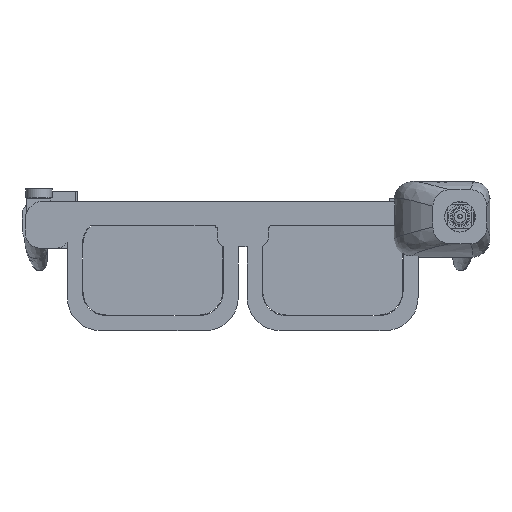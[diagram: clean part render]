
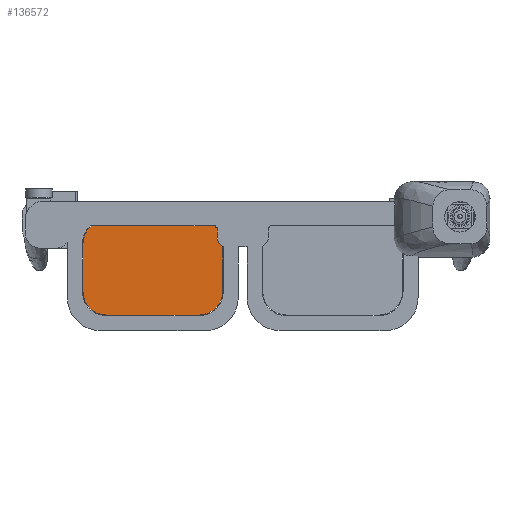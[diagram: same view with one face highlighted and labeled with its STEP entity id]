
A CAD part, front view. The second image highlights one B-rep face of the part: STEP entity #136572.
In plain terms, the highlighted planar face has unit normal (0, -1, 0).
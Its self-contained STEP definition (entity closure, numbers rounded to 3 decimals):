
#136320 = EDGE_CURVE('',#136321,#136323,#136325,.T.);
#136321 = VERTEX_POINT('',#136322);
#136322 = CARTESIAN_POINT('',(-53.3,1.5,-8.));
#136323 = VERTEX_POINT('',#136324);
#136324 = CARTESIAN_POINT('',(-45.5,1.5,-15.8));
#136325 = CIRCLE('',#136326,7.8);
#136326 = AXIS2_PLACEMENT_3D('',#136327,#136328,#136329);
#136327 = CARTESIAN_POINT('',(-45.5,1.5,-8.));
#136328 = DIRECTION('',(0.,-1.,0.));
#136329 = DIRECTION('',(1.,0.,0.));
#136371 = EDGE_CURVE('',#136323,#136372,#136374,.T.);
#136372 = VERTEX_POINT('',#136373);
#136373 = CARTESIAN_POINT('',(-14.5,1.5,-15.8));
#136374 = LINE('',#136375,#136376);
#136375 = CARTESIAN_POINT('',(-45.5,1.5,-15.8));
#136376 = VECTOR('',#136377,1.);
#136377 = DIRECTION('',(1.,0.,0.));
#136403 = VERTEX_POINT('',#136404);
#136404 = CARTESIAN_POINT('',(-53.3,1.5,8.));
#136410 = EDGE_CURVE('',#136321,#136403,#136411,.T.);
#136411 = LINE('',#136412,#136413);
#136412 = CARTESIAN_POINT('',(-53.3,1.5,-8.));
#136413 = VECTOR('',#136414,1.);
#136414 = DIRECTION('',(0.,0.,1.));
#136424 = EDGE_CURVE('',#136372,#136425,#136427,.T.);
#136425 = VERTEX_POINT('',#136426);
#136426 = CARTESIAN_POINT('',(-6.7,1.5,-8.));
#136427 = CIRCLE('',#136428,7.8);
#136428 = AXIS2_PLACEMENT_3D('',#136429,#136430,#136431);
#136429 = CARTESIAN_POINT('',(-14.5,1.5,-8.));
#136430 = DIRECTION('',(0.,-1.,0.));
#136431 = DIRECTION('',(1.,0.,0.));
#136457 = EDGE_CURVE('',#136458,#136403,#136460,.T.);
#136458 = VERTEX_POINT('',#136459);
#136459 = CARTESIAN_POINT('',(-45.5,1.5,15.8));
#136460 = CIRCLE('',#136461,7.8);
#136461 = AXIS2_PLACEMENT_3D('',#136462,#136463,#136464);
#136462 = CARTESIAN_POINT('',(-45.5,1.5,8.));
#136463 = DIRECTION('',(0.,-1.,0.));
#136464 = DIRECTION('',(1.,0.,0.));
#136499 = EDGE_CURVE('',#136458,#136500,#136502,.T.);
#136500 = VERTEX_POINT('',#136501);
#136501 = CARTESIAN_POINT('',(-14.5,1.5,15.8));
#136502 = LINE('',#136503,#136504);
#136503 = CARTESIAN_POINT('',(-45.5,1.5,15.8));
#136504 = VECTOR('',#136505,1.);
#136505 = DIRECTION('',(1.,0.,0.));
#136531 = VERTEX_POINT('',#136532);
#136532 = CARTESIAN_POINT('',(-6.7,1.5,8.));
#136538 = EDGE_CURVE('',#136425,#136531,#136539,.T.);
#136539 = LINE('',#136540,#136541);
#136540 = CARTESIAN_POINT('',(-6.7,1.5,-8.));
#136541 = VECTOR('',#136542,1.);
#136542 = DIRECTION('',(0.,0.,1.));
#136552 = EDGE_CURVE('',#136531,#136500,#136553,.T.);
#136553 = CIRCLE('',#136554,7.8);
#136554 = AXIS2_PLACEMENT_3D('',#136555,#136556,#136557);
#136555 = CARTESIAN_POINT('',(-14.5,1.5,8.));
#136556 = DIRECTION('',(0.,-1.,0.));
#136557 = DIRECTION('',(1.,0.,0.));
#136572 = ADVANCED_FACE('',(#136573),#136583,.T.);
#136573 = FACE_BOUND('',#136574,.T.);
#136574 = EDGE_LOOP('',(#136575,#136576,#136577,#136578,#136579,#136580,
    #136581,#136582));
#136575 = ORIENTED_EDGE('',*,*,#136320,.T.);
#136576 = ORIENTED_EDGE('',*,*,#136371,.T.);
#136577 = ORIENTED_EDGE('',*,*,#136424,.T.);
#136578 = ORIENTED_EDGE('',*,*,#136538,.T.);
#136579 = ORIENTED_EDGE('',*,*,#136552,.T.);
#136580 = ORIENTED_EDGE('',*,*,#136499,.F.);
#136581 = ORIENTED_EDGE('',*,*,#136457,.T.);
#136582 = ORIENTED_EDGE('',*,*,#136410,.F.);
#136583 = PLANE('',#136584);
#136584 = AXIS2_PLACEMENT_3D('',#136585,#136586,#136587);
#136585 = CARTESIAN_POINT('',(-30.,1.5,0.));
#136586 = DIRECTION('',(0.,-1.,0.));
#136587 = DIRECTION('',(1.,0.,0.));
